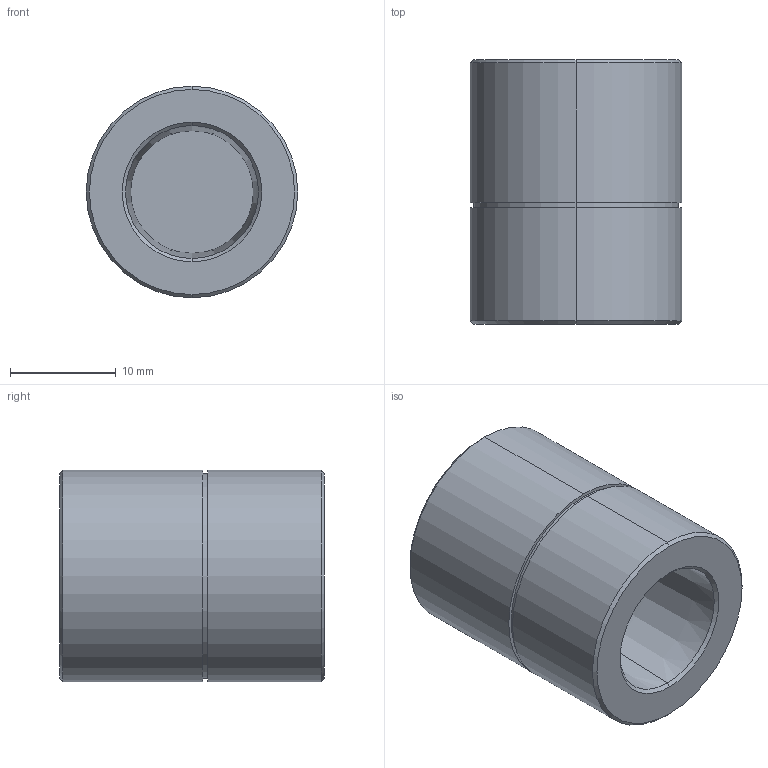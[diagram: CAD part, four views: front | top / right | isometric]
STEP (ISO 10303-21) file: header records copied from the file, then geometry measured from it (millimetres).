
FILE_DESCRIPTION (( 'STEP AP203' ), '1' );
FILE_NAME ('SW-PN-F8-20D-T.STEP', '2022-03-28T07:08:58', ( '' ), ( '' ), 'SwSTEP 2.0', 'SolidWorks 2015', '' );
FILE_SCHEMA (( 'CONFIG_CONTROL_DESIGN' ));
Length unit declared in the file: millimetre
Products named in the file (2): SW-PN-F8-20D-T
Bounding box: 20 x 25 x 20 mm (x, y, z)
Volume: 5967.7 mm3; surface area: 2910.7 mm2
Topology: 1 solids, 1 shells, 22 faces, 42 edges, 26 vertices
Faces by surface type: cylinder 8, cone 8, plane 6
Entity records: 719 total; most frequent: DIRECTION 116, CARTESIAN_POINT 92, ORIENTED_EDGE 84, AXIS2_PLACEMENT_3D 50, EDGE_CURVE 42, VERTEX_POINT 26, EDGE_LOOP 26, CIRCLE 26
